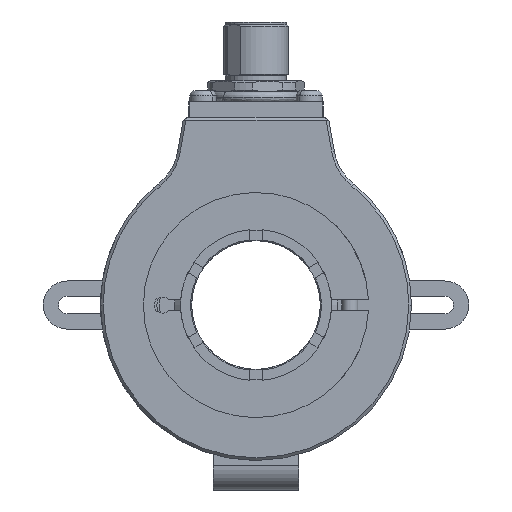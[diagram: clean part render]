
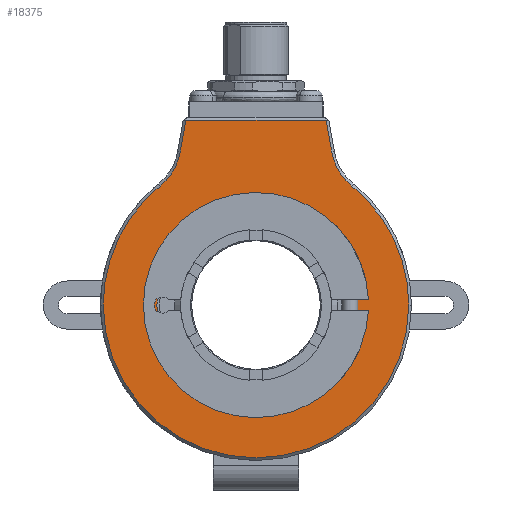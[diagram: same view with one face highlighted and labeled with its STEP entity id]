
A CAD part, left-side view. The second image highlights one B-rep face of the part: STEP entity #18375.
In plain terms, the highlighted planar face has unit normal (-1, 0, 0).
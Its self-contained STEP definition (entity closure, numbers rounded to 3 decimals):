
#51 = CARTESIAN_POINT ( 'NONE',  ( -27., 29., 34.5 ) ) ;
#289 = ORIENTED_EDGE ( 'NONE', *, *, #5904, .T. ) ;
#318 = DIRECTION ( 'NONE',  ( 0., -1., 0. ) ) ;
#596 = CARTESIAN_POINT ( 'NONE',  ( -27., 13.08, 34.5 ) ) ;
#1358 = LINE ( 'NONE', #51, #8951 ) ;
#1479 = CARTESIAN_POINT ( 'NONE',  ( -27., -28.5, 0. ) ) ;
#1634 = DIRECTION ( 'NONE',  ( 1., 0., 0. ) ) ;
#1662 = AXIS2_PLACEMENT_3D ( 'NONE', #15672, #18404, #2453 ) ;
#1809 = ORIENTED_EDGE ( 'NONE', *, *, #3799, .T. ) ;
#2453 = DIRECTION ( 'NONE',  ( 0., -1., 0. ) ) ;
#2811 = CARTESIAN_POINT ( 'NONE',  ( -27., 0., 0. ) ) ;
#3048 = CARTESIAN_POINT ( 'NONE',  ( -27., 24.471, 30.367 ) ) ;
#3078 = CARTESIAN_POINT ( 'NONE',  ( -27., 14.131, 28.544 ) ) ;
#3125 = LINE ( 'NONE', #14831, #13155 ) ;
#3433 = CIRCLE ( 'NONE', #14304, 28.5 ) ;
#3763 = VERTEX_POINT ( 'NONE', #7325 ) ;
#3799 = EDGE_CURVE ( 'NONE', #3763, #14793, #3433, .T. ) ;
#3910 = VERTEX_POINT ( 'NONE', #8927 ) ;
#4056 = VERTEX_POINT ( 'NONE', #10799 ) ;
#4606 = ORIENTED_EDGE ( 'NONE', *, *, #16663, .T. ) ;
#4818 = DIRECTION ( 'NONE',  ( 1., 0., 0. ) ) ;
#4856 = VERTEX_POINT ( 'NONE', #17094 ) ;
#5010 = DIRECTION ( 'NONE',  ( -1., 0., 0. ) ) ;
#5104 = DIRECTION ( 'NONE',  ( 0., 0.174, 0.985 ) ) ;
#5196 = DIRECTION ( 'NONE',  ( 0., -1., 0. ) ) ;
#5219 = EDGE_LOOP ( 'NONE', ( #8069, #8471 ) ) ;
#5632 = CARTESIAN_POINT ( 'NONE',  ( -27., 0., 0. ) ) ;
#5781 = DIRECTION ( 'NONE',  ( 0., 1., 0. ) ) ;
#5892 = ORIENTED_EDGE ( 'NONE', *, *, #14457, .T. ) ;
#5904 = EDGE_CURVE ( 'NONE', #18210, #9793, #3125, .T. ) ;
#6004 = DIRECTION ( 'NONE',  ( 0., -1., 0. ) ) ;
#6170 = AXIS2_PLACEMENT_3D ( 'NONE', #5632, #12995, #13090 ) ;
#6216 = DIRECTION ( 'NONE',  ( 0., 1., 0. ) ) ;
#6608 = CARTESIAN_POINT ( 'NONE',  ( -27., 0., 0. ) ) ;
#7325 = CARTESIAN_POINT ( 'NONE',  ( -27., 17.883, 22.191 ) ) ;
#7677 = CIRCLE ( 'NONE', #1662, 28.5 ) ;
#7689 = CARTESIAN_POINT ( 'NONE',  ( -27., 18.5, 0. ) ) ;
#7770 = ORIENTED_EDGE ( 'NONE', *, *, #11518, .T. ) ;
#8069 = ORIENTED_EDGE ( 'NONE', *, *, #9205, .T. ) ;
#8133 = CIRCLE ( 'NONE', #11167, 28.5 ) ;
#8428 = CIRCLE ( 'NONE', #18399, 10.5 ) ;
#8459 = DIRECTION ( 'NONE',  ( -1., 0., 0. ) ) ;
#8471 = ORIENTED_EDGE ( 'NONE', *, *, #14755, .T. ) ;
#8585 = CIRCLE ( 'NONE', #6170, 18.5 ) ;
#8927 = CARTESIAN_POINT ( 'NONE',  ( -27., -14.131, 28.544 ) ) ;
#8951 = VECTOR ( 'NONE', #5781, 1000. ) ;
#9205 = EDGE_CURVE ( 'NONE', #15016, #4056, #10521, .T. ) ;
#9254 = VERTEX_POINT ( 'NONE', #10556 ) ;
#9443 = CARTESIAN_POINT ( 'NONE',  ( -27., -17.711, 8.236 ) ) ;
#9533 = DIRECTION ( 'NONE',  ( -1., 0., 0. ) ) ;
#9620 = FACE_OUTER_BOUND ( 'NONE', #11481, .T. ) ;
#9793 = VERTEX_POINT ( 'NONE', #3078 ) ;
#9978 = AXIS2_PLACEMENT_3D ( 'NONE', #11049, #5010, #5196 ) ;
#10035 = ORIENTED_EDGE ( 'NONE', *, *, #10052, .T. ) ;
#10052 = EDGE_CURVE ( 'NONE', #9254, #3910, #8428, .T. ) ;
#10521 = CIRCLE ( 'NONE', #13838, 18.5 ) ;
#10539 = EDGE_CURVE ( 'NONE', #14793, #17933, #8133, .T. ) ;
#10556 = CARTESIAN_POINT ( 'NONE',  ( -27., -17.883, 22.191 ) ) ;
#10576 = DIRECTION ( 'NONE',  ( 0., -1., 0. ) ) ;
#10710 = AXIS2_PLACEMENT_3D ( 'NONE', #3048, #1634, #318 ) ;
#10799 = CARTESIAN_POINT ( 'NONE',  ( -27., -18.5, 0. ) ) ;
#11047 = ORIENTED_EDGE ( 'NONE', *, *, #10539, .T. ) ;
#11049 = CARTESIAN_POINT ( 'NONE',  ( -27., 29., 0. ) ) ;
#11167 = AXIS2_PLACEMENT_3D ( 'NONE', #6608, #9533, #15314 ) ;
#11481 = EDGE_LOOP ( 'NONE', ( #7770, #4606, #289, #13066, #1809, #11047, #5892, #10035 ) ) ;
#11518 = EDGE_CURVE ( 'NONE', #3910, #4856, #18047, .T. ) ;
#11999 = CARTESIAN_POINT ( 'NONE',  ( -27., -24.471, 30.367 ) ) ;
#12995 = DIRECTION ( 'NONE',  ( 1., 0., 0. ) ) ;
#13066 = ORIENTED_EDGE ( 'NONE', *, *, #15163, .T. ) ;
#13090 = DIRECTION ( 'NONE',  ( 0., 1., 0. ) ) ;
#13155 = VECTOR ( 'NONE', #17829, 1000. ) ;
#13564 = VECTOR ( 'NONE', #5104, 1000. ) ;
#13838 = AXIS2_PLACEMENT_3D ( 'NONE', #14648, #17652, #6216 ) ;
#13990 = FACE_BOUND ( 'NONE', #5219, .T. ) ;
#14304 = AXIS2_PLACEMENT_3D ( 'NONE', #2811, #8459, #6004 ) ;
#14357 = CIRCLE ( 'NONE', #10710, 10.5 ) ;
#14457 = EDGE_CURVE ( 'NONE', #17933, #9254, #7677, .T. ) ;
#14648 = CARTESIAN_POINT ( 'NONE',  ( -27., 0., 0. ) ) ;
#14755 = EDGE_CURVE ( 'NONE', #4056, #15016, #8585, .T. ) ;
#14793 = VERTEX_POINT ( 'NONE', #17535 ) ;
#14831 = CARTESIAN_POINT ( 'NONE',  ( -27., 19.46, -1.682 ) ) ;
#15016 = VERTEX_POINT ( 'NONE', #7689 ) ;
#15163 = EDGE_CURVE ( 'NONE', #9793, #3763, #14357, .T. ) ;
#15314 = DIRECTION ( 'NONE',  ( 0., -1., 0. ) ) ;
#15672 = CARTESIAN_POINT ( 'NONE',  ( -27., 0., 0. ) ) ;
#16536 = PLANE ( 'NONE',  #9978 ) ;
#16663 = EDGE_CURVE ( 'NONE', #4856, #18210, #1358, .T. ) ;
#17094 = CARTESIAN_POINT ( 'NONE',  ( -27., -13.08, 34.5 ) ) ;
#17535 = CARTESIAN_POINT ( 'NONE',  ( -27., 28.5, 0. ) ) ;
#17652 = DIRECTION ( 'NONE',  ( 1., 0., 0. ) ) ;
#17829 = DIRECTION ( 'NONE',  ( 0., 0.174, -0.985 ) ) ;
#17933 = VERTEX_POINT ( 'NONE', #1479 ) ;
#18047 = LINE ( 'NONE', #9443, #13564 ) ;
#18210 = VERTEX_POINT ( 'NONE', #596 ) ;
#18375 = ADVANCED_FACE ( 'NONE', ( #9620, #13990 ), #16536, .T. ) ;
#18399 = AXIS2_PLACEMENT_3D ( 'NONE', #11999, #4818, #10576 ) ;
#18404 = DIRECTION ( 'NONE',  ( -1., 0., 0. ) ) ;
